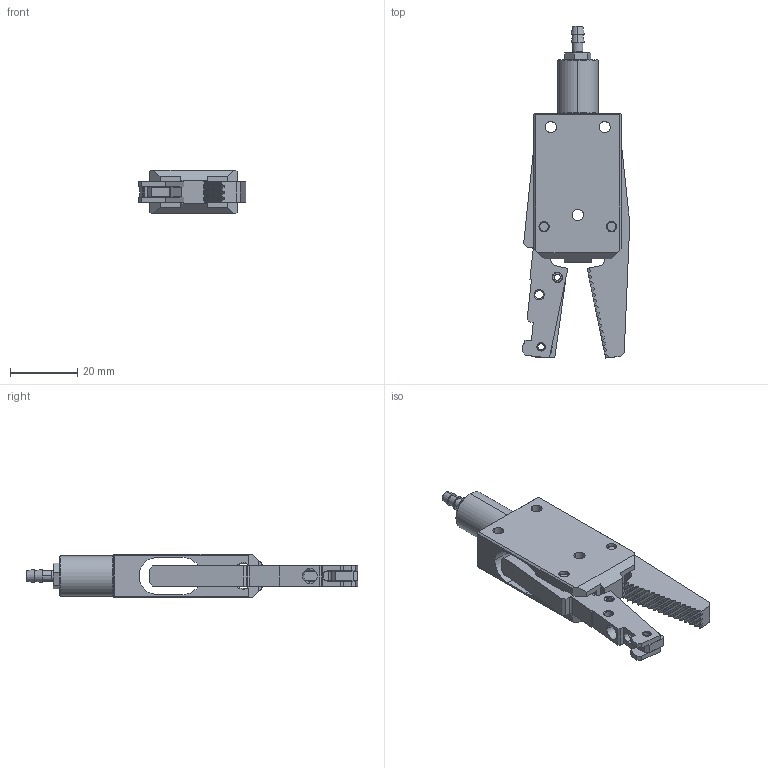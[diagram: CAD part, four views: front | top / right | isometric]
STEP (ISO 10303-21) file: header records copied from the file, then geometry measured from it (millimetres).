
FILE_DESCRIPTION (( 'STEP AP214' ), '1' );
FILE_NAME ('GRM12B-C.STEP', '2023-03-08T00:56:48', ( '微软用户' ), ( '微软中国' ), 'SwSTEP 2.0', 'SolidWorks 2018', '' );
FILE_SCHEMA (( 'AUTOMOTIVE_DESIGN' ));
Length unit declared in the file: millimetre
Products named in the file (2): GRM12B-C
Bounding box: 31.88 x 98.41 x 13 mm (x, y, z)
Volume: 14110.4 mm3; surface area: 11798.1 mm2
Topology: 9 solids, 9 shells, 347 faces, 952 edges, 623 vertices
Faces by surface type: plane 223, cylinder 84, cone 38, bspline 2
Entity records: 11398 total; most frequent: CARTESIAN_POINT 2262, ORIENTED_EDGE 1904, DIRECTION 1835, EDGE_CURVE 952, LINE 689, VECTOR 689, VERTEX_POINT 623, AXIS2_PLACEMENT_3D 573
